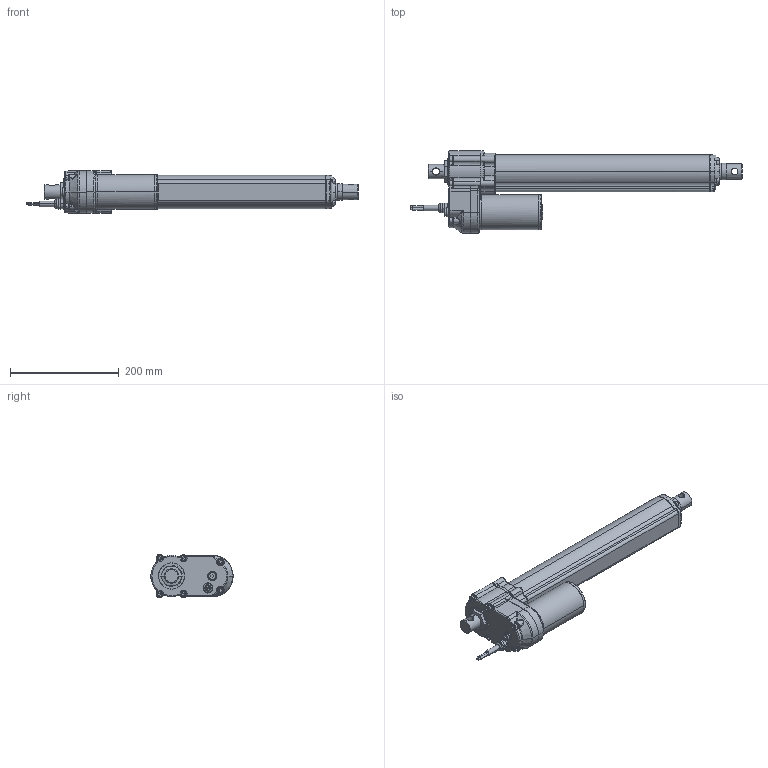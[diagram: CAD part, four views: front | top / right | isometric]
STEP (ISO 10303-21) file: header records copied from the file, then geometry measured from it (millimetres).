
FILE_DESCRIPTION(('STEP AP203'),'1');
FILE_NAME('LINACT-33P-300MM.stp','2025-11-20T12:31:31',('Linear Actuators S.A.'),('Linear Actuators South Africa (Pty) Ltd'),'Spatial InterOp 3D',' ',' ');
FILE_SCHEMA(('CONFIG_CONTROL_DESIGN'));
Length unit declared in the file: millimetre
Products named in the file (1): 1
Bounding box: 611.27 x 151.4 x 79 mm (x, y, z)
Volume: 2481597.4 mm3; surface area: 174324 mm2
Topology: 1 solids, 1 shells, 940 faces, 2391 edges, 1467 vertices
Faces by surface type: torus 294, plane 239, cylinder 234, bspline 105, cone 66, sphere 2
Entity records: 41074 total; most frequent: CARTESIAN_POINT 19629, ORIENTED_EDGE 4728, DIRECTION 4260, EDGE_CURVE 2364, AXIS2_PLACEMENT_3D 1786, VERTEX_POINT 1467, EDGE_LOOP 985, CIRCLE 942
